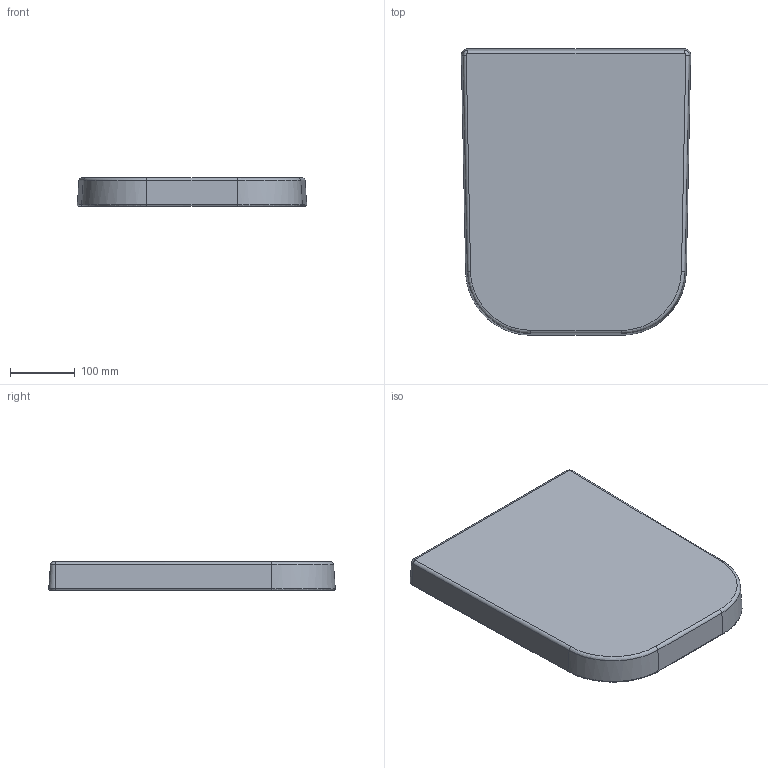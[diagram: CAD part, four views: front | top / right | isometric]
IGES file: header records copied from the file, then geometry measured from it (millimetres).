
Global section: file name: 501556; native system: Autodesk Inventor 2018; preprocessor: unknown; author: JANAN; date: 20201208.113209; units: millimetre
Bounding box: 355.29 x 443.7 x 44 mm (x, y, z)
Volume: 6484912.8 mm3; surface area: 356694.3 mm2
Topology: 1 solids, 1 shells, 30 faces, 62 edges, 36 vertices
Faces by surface type: bspline 30
